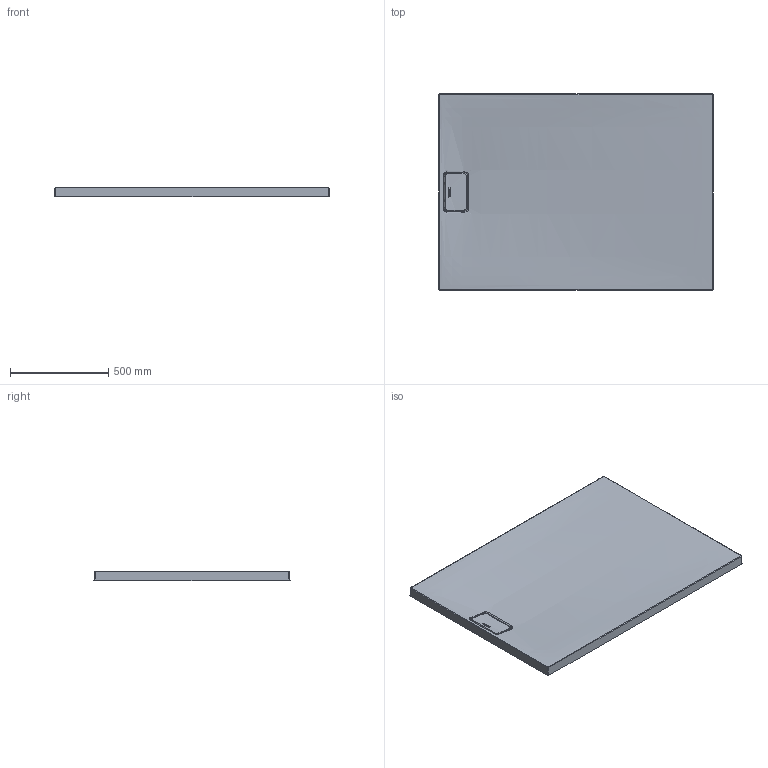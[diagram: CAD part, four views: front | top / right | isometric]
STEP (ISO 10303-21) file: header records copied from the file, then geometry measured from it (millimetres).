
FILE_DESCRIPTION((''),'2;1');
FILE_NAME('C:\Users\Administrator\Desktop\NEWS 2016 Step 1\Stonetto DW\3d\stp\720170.stp','2016-08-24T09:19:29',('Administrator'),(''),'Autodesk Inventor 2011','Autodesk Inventor 2011','');
FILE_SCHEMA(('CONFIG_CONTROL_DESIGN'));
Length unit declared in the file: millimetre
Products named in the file (3): 720170; Ablaufabdeckung
Assembly tree (2 placements, depth 2):
  720170
    720170
    Ablaufabdeckung
Bounding box: 1398 x 998 x 50.22 mm (x, y, z)
Volume: 18321448.1 mm3; surface area: 3432336.9 mm2
Topology: 2 solids, 2 shells, 969 faces, 2428 edges, 1488 vertices
Faces by surface type: bspline 433, plane 299, cylinder 199, torus 17, sphere 16, cone 5
Entity records: 94737 total; most frequent: CARTESIAN_POINT 74818, ORIENTED_EDGE 4822, DIRECTION 2958, EDGE_CURVE 2411, VERTEX_POINT 1484, AXIS2_PLACEMENT_3D 1154, B_SPLINE_CURVE_WITH_KNOTS 1148, EDGE_LOOP 1009
